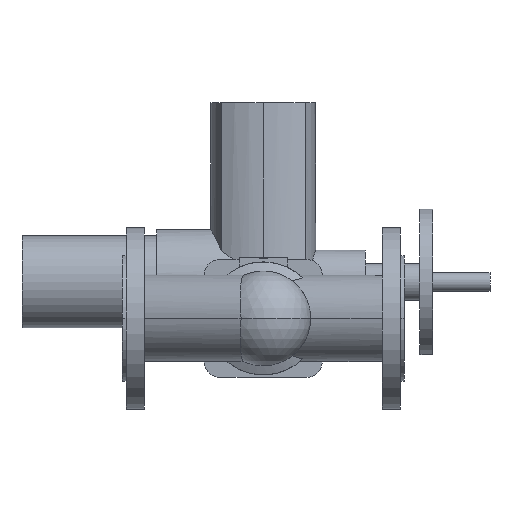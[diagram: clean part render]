
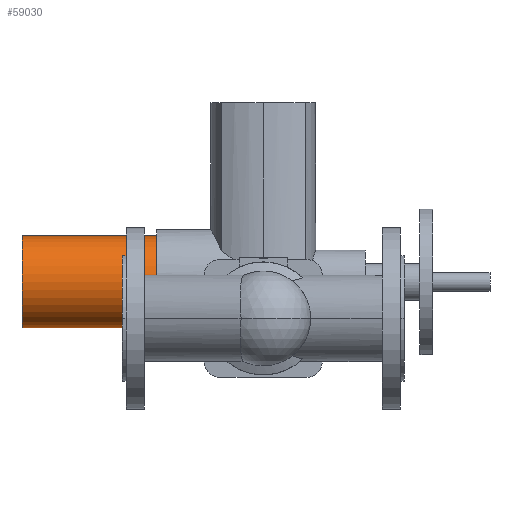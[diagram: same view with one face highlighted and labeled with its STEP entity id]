
A CAD part, front view. The second image highlights one B-rep face of the part: STEP entity #59030.
In plain terms, the highlighted cylindrical face has radius 50.5 mm (diameter 101 mm), a partial arc.
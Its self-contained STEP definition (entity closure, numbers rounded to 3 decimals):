
#58480=CARTESIAN_POINT('',(-36.,682.7,40.));
#58490=DIRECTION('',(1.,0.,0.));
#58500=DIRECTION('',(0.,0.,-1.));
#58510=AXIS2_PLACEMENT_3D('',#58480,#58490,#58500);
#58520=CYLINDRICAL_SURFACE('',#58510,50.5);
#58530=CARTESIAN_POINT('',(-36.,682.7,90.5));
#58540=DIRECTION('',(1.,0.,0.));
#58550=VECTOR('',#58540,1.);
#58560=LINE('',#58530,#58550);
#58570=CARTESIAN_POINT('',(-110.,682.7,90.5));
#58580=VERTEX_POINT('',#58570);
#58590=CARTESIAN_POINT('',(38.,682.7,90.5));
#58600=VERTEX_POINT('',#58590);
#58610=SURFACE_CURVE('',#58560,(#58520,#58520),.CURVE_3D.);
#58620=EDGE_CURVE('',#58580,#58600,#58610,.T.);
#58630=ORIENTED_EDGE('',*,*,#58620,.F.);
#58640=CARTESIAN_POINT('',(38.,682.7,40.));
#58650=DIRECTION('',(-1.,0.,0.));
#58660=DIRECTION('',(0.,0.,-1.));
#58670=AXIS2_PLACEMENT_3D('',#58640,#58650,#58660);
#58680=CIRCLE('',#58670,50.5);
#58690=CARTESIAN_POINT('',(38.,682.7,-10.5));
#58700=VERTEX_POINT('',#58690);
#58710=CARTESIAN_POINT('',(38.,682.7,-14.));
#58720=DIRECTION('',(-1.,0.,0.));
#58730=DIRECTION('',(0.,0.,-1.));
#58740=AXIS2_PLACEMENT_3D('',#58710,#58720,#58730);
#58750=PLANE('',#58740);
#58760=SURFACE_CURVE('',#58680,(#58750,#58520),.CURVE_3D.);
#58770=EDGE_CURVE('',#58700,#58600,#58760,.T.);
#58780=ORIENTED_EDGE('',*,*,#58770,.T.);
#58790=CARTESIAN_POINT('',(-36.,682.7,-10.5));
#58800=DIRECTION('',(1.,0.,0.));
#58810=VECTOR('',#58800,1.);
#58820=LINE('',#58790,#58810);
#58830=CARTESIAN_POINT('',(-110.,682.7,-10.5));
#58840=VERTEX_POINT('',#58830);
#58850=SURFACE_CURVE('',#58820,(#58520,#58520),.CURVE_3D.);
#58860=EDGE_CURVE('',#58840,#58700,#58850,.T.);
#58870=ORIENTED_EDGE('',*,*,#58860,.T.);
#58880=CARTESIAN_POINT('',(-110.,682.7,40.));
#58890=DIRECTION('',(-1.,0.,0.));
#58900=DIRECTION('',(0.,0.,-1.));
#58910=AXIS2_PLACEMENT_3D('',#58880,#58890,#58900);
#58920=CIRCLE('',#58910,50.5);
#58930=CARTESIAN_POINT('',(-110.,682.7,14.75));
#58940=DIRECTION('',(-1.,0.,0.));
#58950=DIRECTION('',(0.,0.,-1.));
#58960=AXIS2_PLACEMENT_3D('',#58930,#58940,#58950);
#58970=PLANE('',#58960);
#58980=SURFACE_CURVE('',#58920,(#58520,#58970),.CURVE_3D.);
#58990=EDGE_CURVE('',#58840,#58580,#58980,.T.);
#59000=ORIENTED_EDGE('',*,*,#58990,.F.);
#59010=EDGE_LOOP('',(#59000,#58870,#58780,#58630));
#59020=FACE_OUTER_BOUND('',#59010,.T.);
#59030=ADVANCED_FACE('',(#59020),#58520,.T.);
